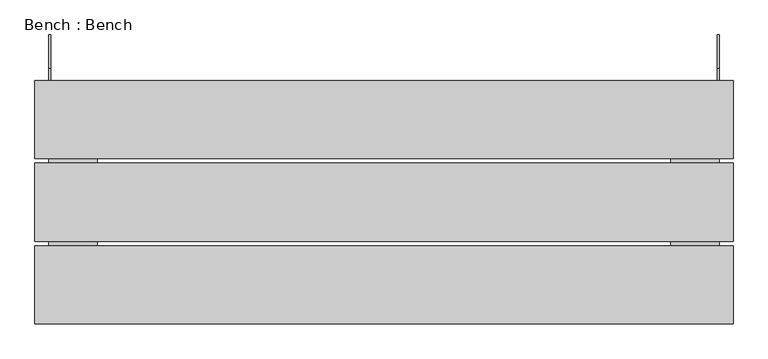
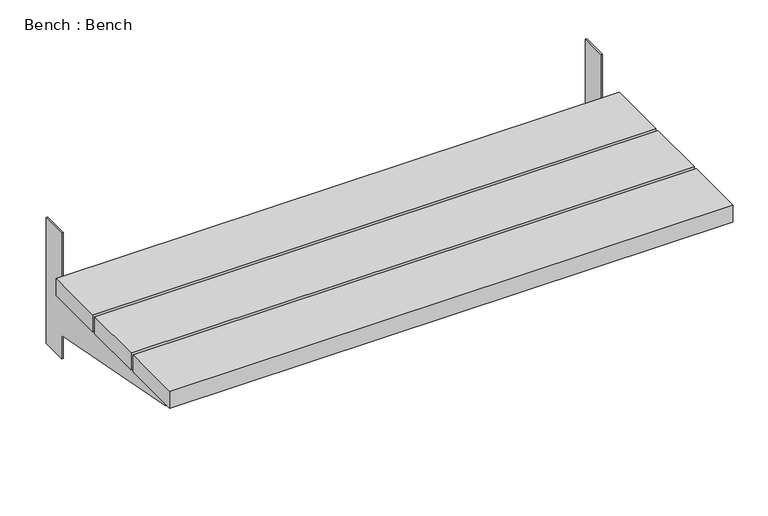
"""IFC4 building model written with IfcOpenShell, lengths in millimetres: proxy geometry, Bench : Bench."""

from ifc_helpers import new_model, si_unit, frame, origin, place, context, project, spatial, polyline, outline, extrude, source, transform, mapped, element, save


def bench_bench_582c90d4(model_context):
    return source(origin(), model_context, "Body", "SweptSolid", [
        extrude(outline(polyline([(-513.0, -82.0), (-513.0, -498.0), (-600.0, -498.0), (-600.0, -82.0), (-513.0, -82.0)])), frame((0.0, 0.0, 167.0), z_axis=(0.0, 0.0, 1.0), x_axis=(1.0, 0.0, 0.0)), (0.0, 0.0, 1.0), 3.0),
        extrude(outline(polyline([(600.0, -82.0), (600.0, -498.0), (513.0, -498.0), (513.0, -82.0), (600.0, -82.0)])), frame((0.0, 0.0, 167.0), z_axis=(0.0, 0.0, 1.0), x_axis=(1.0, 0.0, 0.0)), (0.0, 0.0, 1.0), 3.0),
        extrude(outline(polyline([(0.0, 295.0), (0.0, 0.0), (-60.0, 0.0), (-60.0, 55.0), (-460.0, 132.0), (-460.0, 167.0), (-60.0, 167.0), (-60.0, 295.0), (0.0, 295.0)])), frame((597.0, 0.0, 0.0), z_axis=(1.0, 0.0, 0.0), x_axis=(0.0, 1.0, 0.0)), (0.0, 0.0, 1.0), 3.0),
        extrude(outline(polyline([(625.0, -82.0), (625.0, -222.0), (-625.0, -222.0), (-625.0, -82.0), (625.0, -82.0)])), frame((0.0, 0.0, 170.0), z_axis=(0.0, 0.0, 1.0), x_axis=(1.0, 0.0, 0.0)), (0.0, 0.0, 1.0), 40.0),
        extrude(outline(polyline([(625.0, -230.0), (625.0, -370.0), (-625.0, -370.0), (-625.0, -230.0), (625.0, -230.0)])), frame((0.0, 0.0, 170.0), z_axis=(0.0, 0.0, 1.0), x_axis=(1.0, 0.0, 0.0)), (0.0, 0.0, 1.0), 40.0),
        extrude(outline(polyline([(625.0, -378.0), (625.0, -518.0), (-625.0, -518.0), (-625.0, -378.0), (625.0, -378.0)])), frame((0.0, 0.0, 170.0), z_axis=(0.0, 0.0, 1.0), x_axis=(1.0, 0.0, 0.0)), (0.0, 0.0, 1.0), 40.0),
        extrude(outline(polyline([(0.0, 295.0), (0.0, 0.0), (-60.0, 0.0), (-60.0, 55.0), (-460.0, 132.0), (-460.0, 167.0), (-60.0, 167.0), (-60.0, 295.0), (0.0, 295.0)])), frame((-600.0, 0.0, 0.0), z_axis=(1.0, 0.0, 0.0), x_axis=(0.0, 1.0, 0.0)), (0.0, 0.0, 1.0), 3.0),
    ])


if __name__ == "__main__":
    model = new_model("IFC4")
    model_context = context("Model", 3, world=origin())
    ifc_project = project(units=[si_unit("LENGTHUNIT", "METRE", prefix="MILLI")], contexts=[model_context])
    site = spatial("IfcSite", under=ifc_project)
    building = spatial("IfcBuilding", under=site)
    placement = place(None, origin())
    bench_bench_shape = bench_bench_582c90d4(model_context)
    element("IfcBuildingElementProxy", 1, Name="Bench : Bench", ObjectType="Bench : Bench", at=placement, inside=building, context=model_context, shape_type="MappedRepresentation", body=[
        mapped(bench_bench_shape, transform((0.0, 0.0, 0.0), x_axis=(1.0, 0.0, 0.0), y_axis=(0.0, 1.0, 0.0), z_axis=(0.0, 0.0, 1.0))),
    ])
    save(model, "model.ifc")
